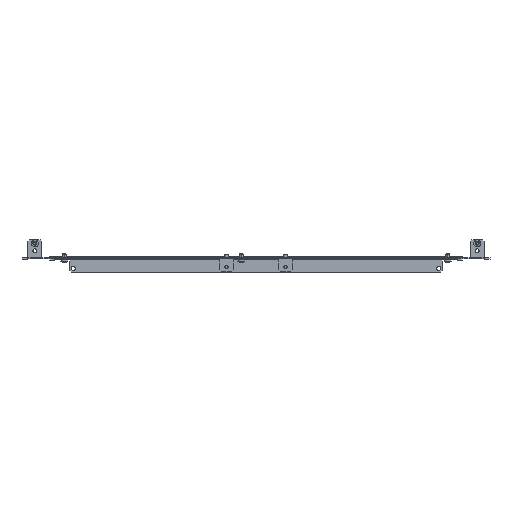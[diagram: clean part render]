
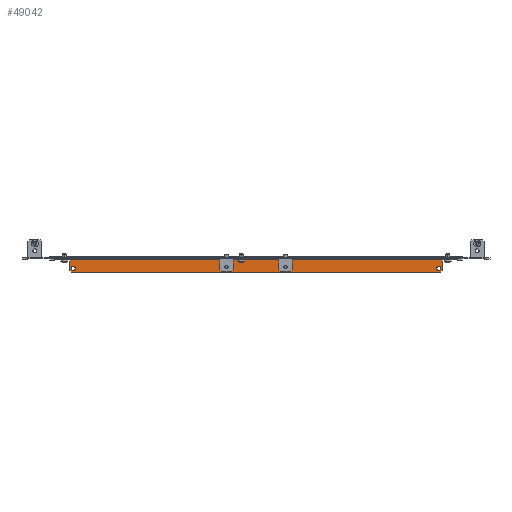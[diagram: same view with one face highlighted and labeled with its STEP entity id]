
A CAD part, left-side view. The second image highlights one B-rep face of the part: STEP entity #49042.
In plain terms, the highlighted planar face has unit normal (-1, 0, 0).
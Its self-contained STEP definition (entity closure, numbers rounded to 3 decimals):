
#357 = DIRECTION ( 'NONE',  ( 0., 0., -1. ) ) ;
#570 = CARTESIAN_POINT ( 'NONE',  ( 314.25, 0., -1.5 ) ) ;
#978 = DIRECTION ( 'NONE',  ( 0., 0., -1. ) ) ;
#1648 = CARTESIAN_POINT ( 'NONE',  ( 314.25, -310., -18.25 ) ) ;
#2494 = CARTESIAN_POINT ( 'NONE',  ( 314.25, -316., -4. ) ) ;
#3694 = ORIENTED_EDGE ( 'NONE', *, *, #55203, .T. ) ;
#4168 = DIRECTION ( 'NONE',  ( 0., 0., -1. ) ) ;
#5298 = CARTESIAN_POINT ( 'NONE',  ( 314.25, 0., -3. ) ) ;
#7181 = EDGE_LOOP ( 'NONE', ( #83638, #3694 ) ) ;
#7810 = CARTESIAN_POINT ( 'NONE',  ( 314.25, 316., -22. ) ) ;
#8305 = CARTESIAN_POINT ( 'NONE',  ( 314.25, 316., -1.5 ) ) ;
#8815 = VERTEX_POINT ( 'NONE', #46197 ) ;
#11482 = ORIENTED_EDGE ( 'NONE', *, *, #20498, .F. ) ;
#12544 = LINE ( 'NONE', #85919, #56811 ) ;
#13053 = VERTEX_POINT ( 'NONE', #55518 ) ;
#13094 = AXIS2_PLACEMENT_3D ( 'NONE', #1648, #66379, #357 ) ;
#13196 = CARTESIAN_POINT ( 'NONE',  ( 314.25, 316., -4. ) ) ;
#13448 = VECTOR ( 'NONE', #65539, 1000. ) ;
#13818 = CARTESIAN_POINT ( 'NONE',  ( 314.25, 168.25, -169.75 ) ) ;
#15775 = VECTOR ( 'NONE', #31463, 1000. ) ;
#16105 = CARTESIAN_POINT ( 'NONE',  ( 314.25, -310., -21.7 ) ) ;
#16883 = EDGE_CURVE ( 'NONE', #48109, #8815, #77978, .T. ) ;
#17151 = VERTEX_POINT ( 'NONE', #16105 ) ;
#17741 = CIRCLE ( 'NONE', #66309, 3.45 ) ;
#18025 = EDGE_CURVE ( 'NONE', #17151, #76243, #44879, .T. ) ;
#18879 = CARTESIAN_POINT ( 'NONE',  ( 314.25, 316., -25. ) ) ;
#19127 = CARTESIAN_POINT ( 'NONE',  ( 314.25, -316., -4. ) ) ;
#19700 = FACE_OUTER_BOUND ( 'NONE', #75637, .T. ) ;
#20498 = EDGE_CURVE ( 'NONE', #61215, #31657, #28246, .T. ) ;
#21257 = AXIS2_PLACEMENT_3D ( 'NONE', #49336, #49755, #4168 ) ;
#21400 = FACE_BOUND ( 'NONE', #7181, .T. ) ;
#21496 = VECTOR ( 'NONE', #72129, 1000. ) ;
#24332 = DIRECTION ( 'NONE',  ( 0., 0., -1. ) ) ;
#25016 = VECTOR ( 'NONE', #38469, 1000. ) ;
#25445 = CARTESIAN_POINT ( 'NONE',  ( 314.25, 316., -3. ) ) ;
#26428 = DIRECTION ( 'NONE',  ( 0., -1., 0. ) ) ;
#27267 = LINE ( 'NONE', #5298, #39977 ) ;
#27458 = FACE_BOUND ( 'NONE', #53783, .T. ) ;
#28246 = LINE ( 'NONE', #8305, #28360 ) ;
#28360 = VECTOR ( 'NONE', #54750, 1000. ) ;
#29665 = CIRCLE ( 'NONE', #13094, 3.45 ) ;
#30005 = VERTEX_POINT ( 'NONE', #37038 ) ;
#30153 = VERTEX_POINT ( 'NONE', #53930 ) ;
#30577 = ORIENTED_EDGE ( 'NONE', *, *, #33818, .T. ) ;
#30846 = ORIENTED_EDGE ( 'NONE', *, *, #60408, .T. ) ;
#31463 = DIRECTION ( 'NONE',  ( 0., 1., 0. ) ) ;
#31627 = CARTESIAN_POINT ( 'NONE',  ( 314.25, -168.25, -169.75 ) ) ;
#31657 = VERTEX_POINT ( 'NONE', #60247 ) ;
#33818 = EDGE_CURVE ( 'NONE', #48109, #60652, #51196, .T. ) ;
#35309 = ORIENTED_EDGE ( 'NONE', *, *, #18025, .T. ) ;
#35708 = VERTEX_POINT ( 'NONE', #7810 ) ;
#35733 = ORIENTED_EDGE ( 'NONE', *, *, #68091, .F. ) ;
#36098 = EDGE_CURVE ( 'NONE', #50039, #60652, #12544, .T. ) ;
#37038 = CARTESIAN_POINT ( 'NONE',  ( 314.25, 310., -14.8 ) ) ;
#37214 = VECTOR ( 'NONE', #71196, 1000. ) ;
#37317 = AXIS2_PLACEMENT_3D ( 'NONE', #73082, #60043, #978 ) ;
#38046 = LINE ( 'NONE', #25445, #25016 ) ;
#38469 = DIRECTION ( 'NONE',  ( 0., 0., 1. ) ) ;
#38484 = CARTESIAN_POINT ( 'NONE',  ( 314.25, -316., -22. ) ) ;
#39450 = LINE ( 'NONE', #13818, #13448 ) ;
#39977 = VECTOR ( 'NONE', #26428, 1000. ) ;
#40858 = ORIENTED_EDGE ( 'NONE', *, *, #16883, .F. ) ;
#43693 = ORIENTED_EDGE ( 'NONE', *, *, #73664, .T. ) ;
#44879 = CIRCLE ( 'NONE', #21257, 3.45 ) ;
#45934 = EDGE_CURVE ( 'NONE', #31657, #30153, #27267, .T. ) ;
#46197 = CARTESIAN_POINT ( 'NONE',  ( 314.25, 313., -25. ) ) ;
#46603 = DIRECTION ( 'NONE',  ( -1., 0., 0. ) ) ;
#47868 = PLANE ( 'NONE',  #74139 ) ;
#48109 = VERTEX_POINT ( 'NONE', #83025 ) ;
#49042 = ADVANCED_FACE ( 'NONE', ( #27458, #21400, #19700 ), #47868, .T. ) ;
#49336 = CARTESIAN_POINT ( 'NONE',  ( 314.25, -310., -18.25 ) ) ;
#49755 = DIRECTION ( 'NONE',  ( 1., 0., 0. ) ) ;
#50039 = VERTEX_POINT ( 'NONE', #2494 ) ;
#51196 = LINE ( 'NONE', #31627, #37214 ) ;
#52106 = DIRECTION ( 'NONE',  ( 1., 0., 0. ) ) ;
#53783 = EDGE_LOOP ( 'NONE', ( #35309, #30846 ) ) ;
#53930 = CARTESIAN_POINT ( 'NONE',  ( 314.25, -316., -3. ) ) ;
#54750 = DIRECTION ( 'NONE',  ( 0., 0., 1. ) ) ;
#55203 = EDGE_CURVE ( 'NONE', #30005, #13053, #17741, .T. ) ;
#55518 = CARTESIAN_POINT ( 'NONE',  ( 314.25, 310., -21.7 ) ) ;
#56811 = VECTOR ( 'NONE', #65942, 1000. ) ;
#57338 = CARTESIAN_POINT ( 'NONE',  ( 314.25, 310., -18.25 ) ) ;
#60043 = DIRECTION ( 'NONE',  ( 1., 0., 0. ) ) ;
#60247 = CARTESIAN_POINT ( 'NONE',  ( 314.25, 316., -3. ) ) ;
#60408 = EDGE_CURVE ( 'NONE', #76243, #17151, #29665, .T. ) ;
#60652 = VERTEX_POINT ( 'NONE', #38484 ) ;
#61215 = VERTEX_POINT ( 'NONE', #13196 ) ;
#65142 = CIRCLE ( 'NONE', #37317, 3.45 ) ;
#65196 = LINE ( 'NONE', #19127, #21496 ) ;
#65539 = DIRECTION ( 'NONE',  ( 0., -0.707, -0.707 ) ) ;
#65942 = DIRECTION ( 'NONE',  ( 0., 0., -1. ) ) ;
#66309 = AXIS2_PLACEMENT_3D ( 'NONE', #57338, #52106, #24332 ) ;
#66379 = DIRECTION ( 'NONE',  ( 1., 0., 0. ) ) ;
#67404 = EDGE_CURVE ( 'NONE', #13053, #30005, #65142, .T. ) ;
#67452 = DIRECTION ( 'NONE',  ( 0., 1., 0. ) ) ;
#68091 = EDGE_CURVE ( 'NONE', #35708, #61215, #38046, .T. ) ;
#68770 = ORIENTED_EDGE ( 'NONE', *, *, #36098, .F. ) ;
#71196 = DIRECTION ( 'NONE',  ( 0., -0.707, 0.707 ) ) ;
#72094 = EDGE_CURVE ( 'NONE', #50039, #30153, #65196, .T. ) ;
#72129 = DIRECTION ( 'NONE',  ( 0., 0., 1. ) ) ;
#72400 = CARTESIAN_POINT ( 'NONE',  ( 314.25, -310., -14.8 ) ) ;
#73082 = CARTESIAN_POINT ( 'NONE',  ( 314.25, 310., -18.25 ) ) ;
#73664 = EDGE_CURVE ( 'NONE', #35708, #8815, #39450, .T. ) ;
#74139 = AXIS2_PLACEMENT_3D ( 'NONE', #570, #46603, #67452 ) ;
#75637 = EDGE_LOOP ( 'NONE', ( #40858, #30577, #68770, #79385, #80025, #11482, #35733, #43693 ) ) ;
#76243 = VERTEX_POINT ( 'NONE', #72400 ) ;
#77978 = LINE ( 'NONE', #18879, #15775 ) ;
#79385 = ORIENTED_EDGE ( 'NONE', *, *, #72094, .T. ) ;
#80025 = ORIENTED_EDGE ( 'NONE', *, *, #45934, .F. ) ;
#83025 = CARTESIAN_POINT ( 'NONE',  ( 314.25, -313., -25. ) ) ;
#83638 = ORIENTED_EDGE ( 'NONE', *, *, #67404, .T. ) ;
#85919 = CARTESIAN_POINT ( 'NONE',  ( 314.25, -316., -25. ) ) ;
